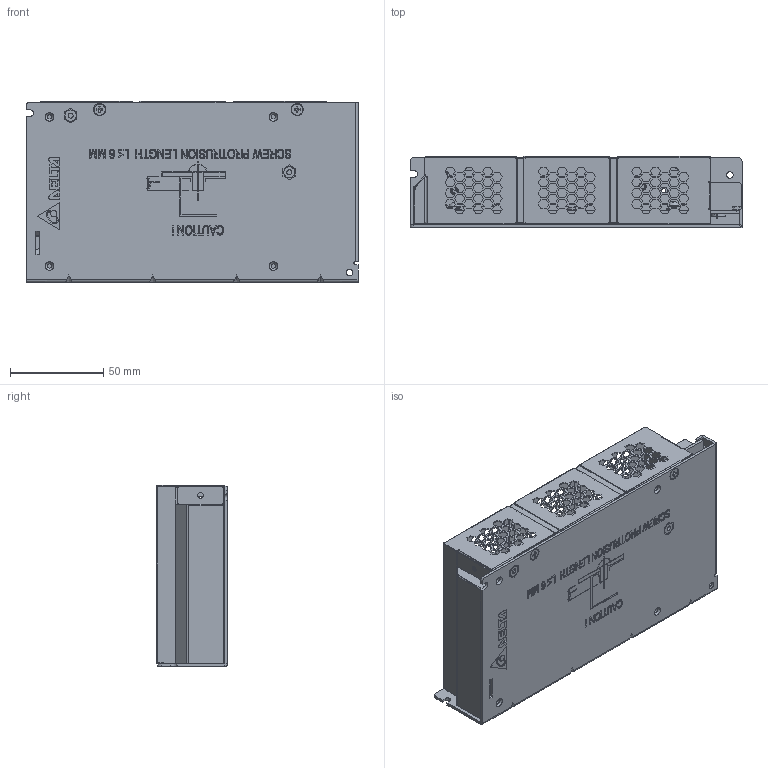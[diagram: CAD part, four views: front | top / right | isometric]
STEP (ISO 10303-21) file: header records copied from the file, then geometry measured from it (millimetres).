
FILE_DESCRIPTION((''),'2;1');
FILE_NAME('PMC-48V150W1BA_ASM','2013-07-18T',('Anothai'),(''),'PRO/ENGINEER BY PARAMETRIC TECHNOLOGY CORPORATION, 2010180','PRO/ENGINEER BY PARAMETRIC TECHNOLOGY CORPORATION, 2010180','');
FILE_SCHEMA(('CONFIG_CONTROL_DESIGN','SHAPE_APPEARANCE_LAYERS_GROUPS'));
Products named in the file (18): 330309620101; 330309620101_A_STUD; 330309620101_ASM; 331606170101; 326203860203; 3268095800; 2958049602_PWB; EE_VR550; EE_LED350; 307049757W_A_BODY; 307049757W_A_SCREW; 307049757W_ASM; ASSY_PWB_PMC-48V150W1BL_ASM; 3103301000; 3100001000; 3100000800; 3100000400; PMC-48V150W1BA_ASM
Assembly tree (28 placements, depth 4):
  PMC-48V150W1BA_ASM
    330309620101_ASM
      330309620101
      330309620101_A_STUD  x2
    331606170101
    326203860203
    3268095800
    ASSY_PWB_PMC-48V150W1BL_ASM
      2958049602_PWB
      EE_VR550
      EE_LED350
      307049757W_ASM
        307049757W_A_BODY
        307049757W_A_SCREW  x7
    3103301000  x2
    3100001000
    3100000800
    3100000400  x4
Bounding box: 178 x 38.08 x 97.05 mm (x, y, z)
Volume: 84842.2 mm3; surface area: 145320 mm2
Topology: 25 solids, 25 shells, 6582 faces, 17955 edges, 11198 vertices
Faces by surface type: plane 4938, cylinder 626, bspline 426, extrusion 412, cone 146, torus 28, sphere 6
Entity records: 239957 total; most frequent: CARTESIAN_POINT 43692, ORIENTED_EDGE 31746, DIRECTION 26497, PRESENTATION_STYLE_ASSIGNMENT 16157, STYLED_ITEM 15890, CURVE_STYLE 15873, EDGE_CURVE 15873, VECTOR 14187
